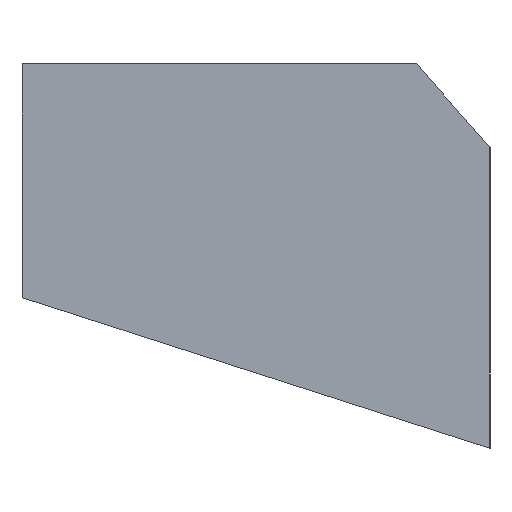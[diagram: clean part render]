
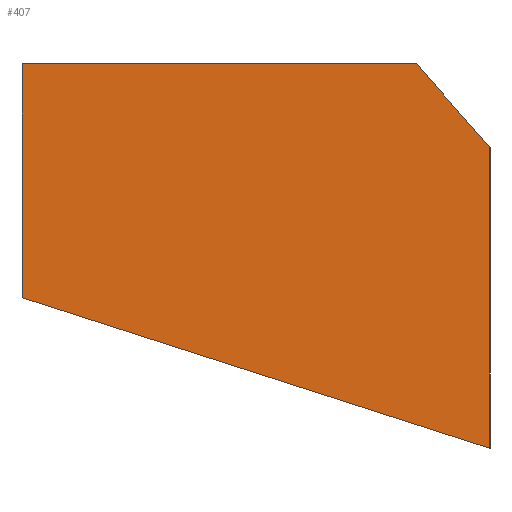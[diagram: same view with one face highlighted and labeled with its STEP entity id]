
A CAD part, left-side view. The second image highlights one B-rep face of the part: STEP entity #407.
In plain terms, the highlighted planar face has unit normal (-1, 0, 0).
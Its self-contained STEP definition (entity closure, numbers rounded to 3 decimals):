
#22 = VERTEX_POINT('',#23);
#23 = CARTESIAN_POINT('',(-29.,-12.,-20.333));
#32 = PLANE('',#33);
#33 = AXIS2_PLACEMENT_3D('',#34,#35,#36);
#34 = CARTESIAN_POINT('',(-29.,-12.,-20.333));
#35 = DIRECTION('',(-0.,1.,-0.));
#36 = DIRECTION('',(0.,0.,-1.));
#44 = PLANE('',#45);
#45 = AXIS2_PLACEMENT_3D('',#46,#47,#48);
#46 = CARTESIAN_POINT('',(-29.,2.,-15.833));
#47 = DIRECTION('',(-0.,-0.306,0.952));
#48 = DIRECTION('',(0.,0.952,0.306));
#85 = VERTEX_POINT('',#86);
#86 = CARTESIAN_POINT('',(-29.,-12.,-11.333));
#100 = PLANE('',#101);
#101 = AXIS2_PLACEMENT_3D('',#102,#103,#104);
#102 = CARTESIAN_POINT('',(-29.,-12.,-11.333));
#103 = DIRECTION('',(0.,0.751,-0.661));
#104 = DIRECTION('',(0.,-0.661,-0.751));
#112 = EDGE_CURVE('',#22,#85,#113,.T.);
#113 = SURFACE_CURVE('',#114,(#118,#125),.PCURVE_S1.);
#114 = LINE('',#115,#116);
#115 = CARTESIAN_POINT('',(-29.,-12.,-20.333));
#116 = VECTOR('',#117,1.);
#117 = DIRECTION('',(-0.,-0.,1.));
#118 = PCURVE('',#32,#119);
#119 = DEFINITIONAL_REPRESENTATION('',(#120),#124);
#120 = LINE('',#121,#122);
#121 = CARTESIAN_POINT('',(-0.,-0.));
#122 = VECTOR('',#123,1.);
#123 = DIRECTION('',(-1.,0.));
#124 = ( GEOMETRIC_REPRESENTATION_CONTEXT(2) 
PARAMETRIC_REPRESENTATION_CONTEXT() REPRESENTATION_CONTEXT('2D SPACE',''
  ) );
#125 = PCURVE('',#126,#131);
#126 = PLANE('',#127);
#127 = AXIS2_PLACEMENT_3D('',#128,#129,#130);
#128 = CARTESIAN_POINT('',(-29.,-5.451,-13.801));
#129 = DIRECTION('',(1.,-0.,-0.));
#130 = DIRECTION('',(0.,0.,-1.));
#131 = DEFINITIONAL_REPRESENTATION('',(#132),#136);
#132 = LINE('',#133,#134);
#133 = CARTESIAN_POINT('',(6.533,-6.549));
#134 = VECTOR('',#135,1.);
#135 = DIRECTION('',(-1.,0.));
#136 = ( GEOMETRIC_REPRESENTATION_CONTEXT(2) 
PARAMETRIC_REPRESENTATION_CONTEXT() REPRESENTATION_CONTEXT('2D SPACE',''
  ) );
#166 = VERTEX_POINT('',#167);
#167 = CARTESIAN_POINT('',(-29.,-9.8,-8.833));
#181 = PLANE('',#182);
#182 = AXIS2_PLACEMENT_3D('',#183,#184,#185);
#183 = CARTESIAN_POINT('',(-29.,-9.8,-8.833));
#184 = DIRECTION('',(-0.,-0.,-1.));
#185 = DIRECTION('',(0.,-1.,0.));
#193 = EDGE_CURVE('',#85,#166,#194,.T.);
#194 = SURFACE_CURVE('',#195,(#199,#206),.PCURVE_S1.);
#195 = LINE('',#196,#197);
#196 = CARTESIAN_POINT('',(-29.,-12.,-11.333));
#197 = VECTOR('',#198,1.);
#198 = DIRECTION('',(-0.,0.661,0.751));
#199 = PCURVE('',#100,#200);
#200 = DEFINITIONAL_REPRESENTATION('',(#201),#205);
#201 = LINE('',#202,#203);
#202 = CARTESIAN_POINT('',(-0.,0.));
#203 = VECTOR('',#204,1.);
#204 = DIRECTION('',(-1.,0.));
#205 = ( GEOMETRIC_REPRESENTATION_CONTEXT(2) 
PARAMETRIC_REPRESENTATION_CONTEXT() REPRESENTATION_CONTEXT('2D SPACE',''
  ) );
#206 = PCURVE('',#126,#207);
#207 = DEFINITIONAL_REPRESENTATION('',(#208),#212);
#208 = LINE('',#209,#210);
#209 = CARTESIAN_POINT('',(-2.467,-6.549));
#210 = VECTOR('',#211,1.);
#211 = DIRECTION('',(-0.751,0.661));
#212 = ( GEOMETRIC_REPRESENTATION_CONTEXT(2) 
PARAMETRIC_REPRESENTATION_CONTEXT() REPRESENTATION_CONTEXT('2D SPACE',''
  ) );
#242 = VERTEX_POINT('',#243);
#243 = CARTESIAN_POINT('',(-29.,2.,-8.833));
#257 = PLANE('',#258);
#258 = AXIS2_PLACEMENT_3D('',#259,#260,#261);
#259 = CARTESIAN_POINT('',(-29.,2.,-8.833));
#260 = DIRECTION('',(-0.,-1.,-0.));
#261 = DIRECTION('',(0.,0.,1.));
#269 = EDGE_CURVE('',#166,#242,#270,.T.);
#270 = SURFACE_CURVE('',#271,(#275,#282),.PCURVE_S1.);
#271 = LINE('',#272,#273);
#272 = CARTESIAN_POINT('',(-29.,-9.8,-8.833));
#273 = VECTOR('',#274,1.);
#274 = DIRECTION('',(-0.,1.,-0.));
#275 = PCURVE('',#181,#276);
#276 = DEFINITIONAL_REPRESENTATION('',(#277),#281);
#277 = LINE('',#278,#279);
#278 = CARTESIAN_POINT('',(-0.,0.));
#279 = VECTOR('',#280,1.);
#280 = DIRECTION('',(-1.,0.));
#281 = ( GEOMETRIC_REPRESENTATION_CONTEXT(2) 
PARAMETRIC_REPRESENTATION_CONTEXT() REPRESENTATION_CONTEXT('2D SPACE',''
  ) );
#282 = PCURVE('',#126,#283);
#283 = DEFINITIONAL_REPRESENTATION('',(#284),#288);
#284 = LINE('',#285,#286);
#285 = CARTESIAN_POINT('',(-4.967,-4.349));
#286 = VECTOR('',#287,1.);
#287 = DIRECTION('',(-0.,1.));
#288 = ( GEOMETRIC_REPRESENTATION_CONTEXT(2) 
PARAMETRIC_REPRESENTATION_CONTEXT() REPRESENTATION_CONTEXT('2D SPACE',''
  ) );
#318 = VERTEX_POINT('',#319);
#319 = CARTESIAN_POINT('',(-29.,2.,-15.833));
#340 = EDGE_CURVE('',#242,#318,#341,.T.);
#341 = SURFACE_CURVE('',#342,(#346,#353),.PCURVE_S1.);
#342 = LINE('',#343,#344);
#343 = CARTESIAN_POINT('',(-29.,2.,-8.833));
#344 = VECTOR('',#345,1.);
#345 = DIRECTION('',(-0.,-0.,-1.));
#346 = PCURVE('',#257,#347);
#347 = DEFINITIONAL_REPRESENTATION('',(#348),#352);
#348 = LINE('',#349,#350);
#349 = CARTESIAN_POINT('',(-0.,-0.));
#350 = VECTOR('',#351,1.);
#351 = DIRECTION('',(-1.,0.));
#352 = ( GEOMETRIC_REPRESENTATION_CONTEXT(2) 
PARAMETRIC_REPRESENTATION_CONTEXT() REPRESENTATION_CONTEXT('2D SPACE',''
  ) );
#353 = PCURVE('',#126,#354);
#354 = DEFINITIONAL_REPRESENTATION('',(#355),#359);
#355 = LINE('',#356,#357);
#356 = CARTESIAN_POINT('',(-4.967,7.451));
#357 = VECTOR('',#358,1.);
#358 = DIRECTION('',(1.,-0.));
#359 = ( GEOMETRIC_REPRESENTATION_CONTEXT(2) 
PARAMETRIC_REPRESENTATION_CONTEXT() REPRESENTATION_CONTEXT('2D SPACE',''
  ) );
#387 = EDGE_CURVE('',#318,#22,#388,.T.);
#388 = SURFACE_CURVE('',#389,(#393,#400),.PCURVE_S1.);
#389 = LINE('',#390,#391);
#390 = CARTESIAN_POINT('',(-29.,2.,-15.833));
#391 = VECTOR('',#392,1.);
#392 = DIRECTION('',(-0.,-0.952,-0.306));
#393 = PCURVE('',#44,#394);
#394 = DEFINITIONAL_REPRESENTATION('',(#395),#399);
#395 = LINE('',#396,#397);
#396 = CARTESIAN_POINT('',(-0.,-0.));
#397 = VECTOR('',#398,1.);
#398 = DIRECTION('',(-1.,0.));
#399 = ( GEOMETRIC_REPRESENTATION_CONTEXT(2) 
PARAMETRIC_REPRESENTATION_CONTEXT() REPRESENTATION_CONTEXT('2D SPACE',''
  ) );
#400 = PCURVE('',#126,#401);
#401 = DEFINITIONAL_REPRESENTATION('',(#402),#406);
#402 = LINE('',#403,#404);
#403 = CARTESIAN_POINT('',(2.033,7.451));
#404 = VECTOR('',#405,1.);
#405 = DIRECTION('',(0.306,-0.952));
#406 = ( GEOMETRIC_REPRESENTATION_CONTEXT(2) 
PARAMETRIC_REPRESENTATION_CONTEXT() REPRESENTATION_CONTEXT('2D SPACE',''
  ) );
#407 = ADVANCED_FACE('',(#408),#126,.F.);
#408 = FACE_BOUND('',#409,.T.);
#409 = EDGE_LOOP('',(#410,#411,#412,#413,#414));
#410 = ORIENTED_EDGE('',*,*,#112,.T.);
#411 = ORIENTED_EDGE('',*,*,#193,.T.);
#412 = ORIENTED_EDGE('',*,*,#269,.T.);
#413 = ORIENTED_EDGE('',*,*,#340,.T.);
#414 = ORIENTED_EDGE('',*,*,#387,.T.);
